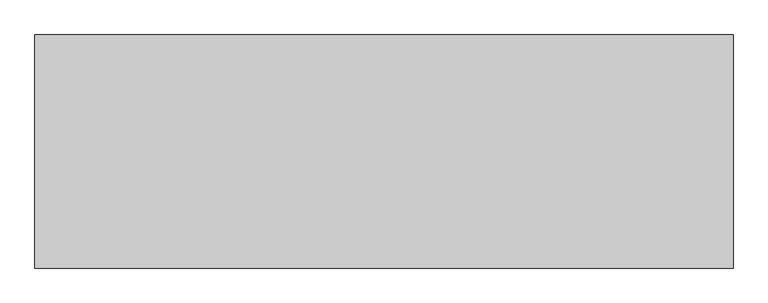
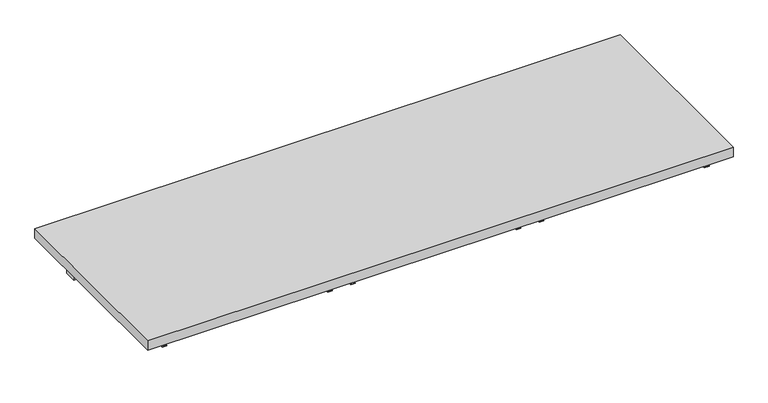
"""IFC4 building model written with IfcOpenShell, lengths in millimetres: furniture geometry."""

from ifc_helpers import new_model, si_unit, frame, origin, place, context, project, spatial, polyline, outline, extrude, source, transform, mapped, element, save


def furniture_04291885(model_context):
    return source(origin(), model_context, "Body", "SweptSolid", [
        extrude(outline(polyline([(1522.4125, 177.8), (1522.4125, -431.8), (-303.2125, -431.8), (-303.2125, 177.8), (1522.4125, 177.8)])), frame((0.0, 0.0, 882.65), z_axis=(0.0, 0.0, 1.0), x_axis=(1.0, 0.0, 0.0)), (0.0, 0.0, 1.0), 31.75),
        extrude(outline(polyline([(1489.075, 63.5), (1489.075, 25.4), (-269.875, 25.4), (-269.875, 63.5), (1489.075, 63.5)])), frame((0.0, 0.0, 825.5), z_axis=(0.0, 0.0, 1.0), x_axis=(1.0, 0.0, 0.0)), (0.0, 0.0, 1.0), 57.15),
        extrude(outline(polyline([(857.25, 287.3375), (882.65, 287.3375), (882.65, 285.75), (858.8375, 285.75), (858.8375, 273.05), (857.25, 273.05), (857.25, 287.3375)])), frame((0.0, -406.4, 0.0), z_axis=(0.0, 1.0, 0.0), x_axis=(0.0, 0.0, 1.0)), (0.0, 0.0, 1.0), 390.525),
        extrude(outline(polyline([(858.8375, -228.6), (858.8375, -241.3), (882.65, -241.3), (882.65, -242.8875), (857.25, -242.8875), (857.25, -228.6), (858.8375, -228.6)])), frame((0.0, -406.4, 0.0), z_axis=(0.0, 1.0, 0.0), x_axis=(0.0, 0.0, 1.0)), (0.0, 0.0, 1.0), 390.525),
        extrude(outline(polyline([(858.8375, 946.15), (858.8375, 933.45), (882.65, 933.45), (882.65, 931.8625), (857.25, 931.8625), (857.25, 946.15), (858.8375, 946.15)])), frame((0.0, -406.4, 0.0), z_axis=(0.0, 1.0, 0.0), x_axis=(0.0, 0.0, 1.0)), (0.0, 0.0, 1.0), 390.525),
        extrude(outline(polyline([(858.8375, 1460.5), (858.8375, 1447.8), (857.25, 1447.8), (857.25, 1462.0875), (882.65, 1462.0875), (882.65, 1460.5), (858.8375, 1460.5)])), frame((0.0, -406.4, 0.0), z_axis=(0.0, 1.0, 0.0), x_axis=(0.0, 0.0, 1.0)), (0.0, 0.0, 1.0), 390.525),
        extrude(outline(polyline([(858.8375, 933.45), (882.65, 933.45), (882.65, 931.8625), (857.25, 931.8625), (857.25, 946.15), (858.8375, 946.15), (858.8375, 933.45)])), frame((0.0, -406.4, 0.0), z_axis=(0.0, 1.0, 0.0), x_axis=(0.0, 0.0, 1.0)), (0.0, 0.0, 1.0), 390.525),
        extrude(outline(polyline([(858.8375, 285.75), (858.8375, 273.05), (857.25, 273.05), (857.25, 287.3375), (882.65, 287.3375), (882.65, 285.75), (858.8375, 285.75)])), frame((0.0, -406.4, 0.0), z_axis=(0.0, 1.0, 0.0), x_axis=(0.0, 0.0, 1.0)), (0.0, 0.0, 1.0), 390.525),
        extrude(outline(polyline([(858.8375, 346.075), (882.65, 346.075), (882.65, 344.4875), (857.25, 344.4875), (857.25, 358.775), (858.8375, 358.775), (858.8375, 346.075)])), frame((0.0, -406.4, 0.0), z_axis=(0.0, 1.0, 0.0), x_axis=(0.0, 0.0, 1.0)), (0.0, 0.0, 1.0), 390.525),
        extrude(outline(polyline([(858.8375, 873.125), (858.8375, 860.425), (857.25, 860.425), (857.25, 874.7125), (882.65, 874.7125), (882.65, 873.125), (858.8375, 873.125)])), frame((0.0, -406.4, 0.0), z_axis=(0.0, 1.0, 0.0), x_axis=(0.0, 0.0, 1.0)), (0.0, 0.0, 1.0), 390.525),
    ])


if __name__ == "__main__":
    model = new_model("IFC4")
    model_context = context("Model", 3, world=origin())
    ifc_project = project(units=[si_unit("LENGTHUNIT", "METRE", prefix="MILLI")], contexts=[model_context])
    site = spatial("IfcSite", under=ifc_project)
    building = spatial("IfcBuilding", under=site)
    placement = place(None, origin())
    furniture_shape = furniture_04291885(model_context)
    element("IfcFurniture", 1, ObjectType="HermanMiller_CoStruc_C2141_Heavy-DutyWorkSurface : 24\"D x 72\"W Lam", at=placement, inside=building, context=model_context, shape_type="MappedRepresentation", body=[
        mapped(furniture_shape, transform((0.0, 0.0, 0.0), x_axis=(1.0, 0.0, 0.0), y_axis=(0.0, 1.0, 0.0), z_axis=(0.0, 0.0, 1.0))),
    ])
    save(model, "model.ifc")
